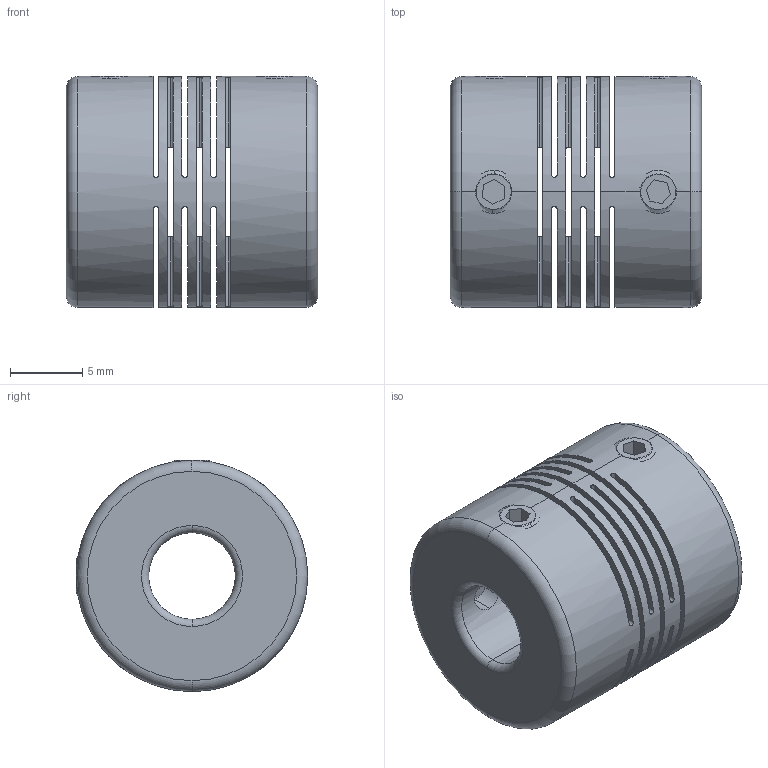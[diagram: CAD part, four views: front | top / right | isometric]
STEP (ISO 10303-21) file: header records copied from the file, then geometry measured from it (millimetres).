
FILE_DESCRIPTION (( 'STEP AP203' ), '1' );
FILE_NAME ('FAMS16-6x6.STEP', '2013-12-04T05:29:39', ( '123' ), ( '' ), 'SwSTEP 2.0', 'SolidWorks 2013', '' );
FILE_SCHEMA (( 'CONFIG_CONTROL_DESIGN' ));
Length unit declared in the file: millimetre
Products named in the file (1): FAMS16-6x6
Bounding box: 17.4 x 16 x 16 mm (x, y, z)
Surface area: 3296 mm2 (no closed solid volume)
Topology: 0 solids, 9 shells, 134 faces, 400 edges, 264 vertices
Faces by surface type: cylinder 62, plane 56, torus 8, cone 8
Entity records: 5113 total; most frequent: CARTESIAN_POINT 1607, ORIENTED_EDGE 688, DIRECTION 670, EDGE_CURVE 400, VERTEX_POINT 264, AXIS2_PLACEMENT_3D 247, VECTOR 176, LINE 176
